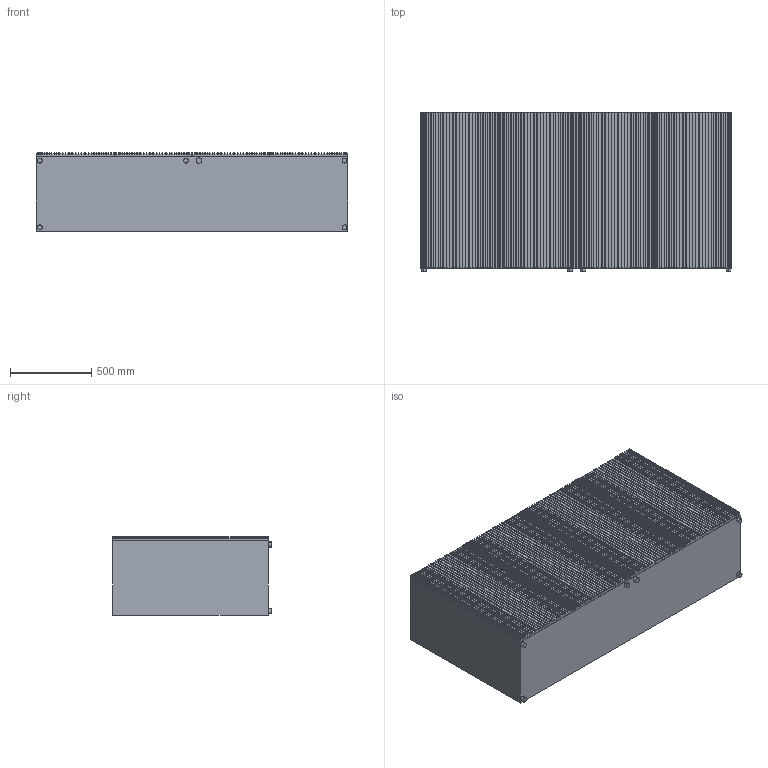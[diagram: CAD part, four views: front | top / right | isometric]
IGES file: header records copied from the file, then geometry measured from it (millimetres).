
Start section: SolidWorks IGES file using analytic representation for surfaces
Global section: file name: C:\Users\Matteo\Desktop\_Horm\_carlos\_collezione carlos\_IGS CARLOS\CARLOS cm 192X49X98H.IGS; native system: SolidWorks 2010; preprocessor: SolidWorks 2010; author: Matteo; date: 160224.162023; units: millimetre
Bounding box: 1920 x 980 x 484 mm (x, y, z)
Surface area: 14262417.2 mm2 (no closed solid volume)
Topology: 0 solids, 0 shells, 1288 faces, 6696 edges, 6696 vertices
Faces by surface type: bspline 1276, revolution 12
